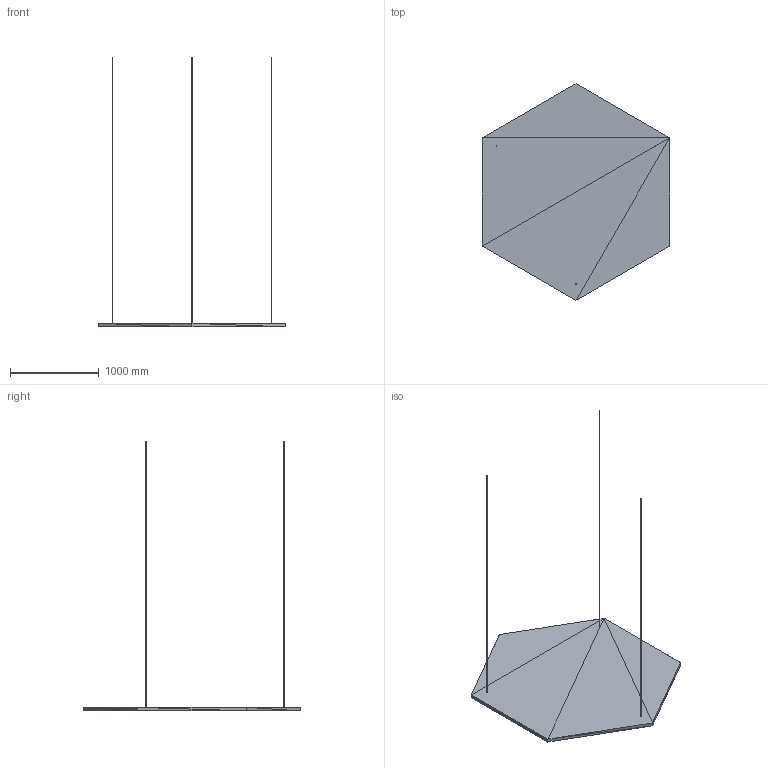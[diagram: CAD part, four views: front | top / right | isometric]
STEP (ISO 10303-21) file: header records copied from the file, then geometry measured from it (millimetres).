
FILE_DESCRIPTION(('ISINAC STEP AP214'),'2;1');
FILE_NAME('ISINAC_HEX.1220_40mm_COLGADO','2026-05-03T10:49:19',('ISINAC'),('www.isinac.com'),'ISINAC BIM Generator 1.0','','');
FILE_SCHEMA(('AUTOMOTIVE_DESIGN'));
Length unit declared in the file: millimetre
Products named in the file (1): ISINAC_HEX.1220_40mm_COLGADO
Bounding box: 2113.1 x 2440 x 3040 mm (x, y, z)
Surface area: 8107787.2 mm2 (no closed solid volume)
Topology: 0 solids, 80 shells, 80 faces, 240 edges, 240 vertices
Faces by surface type: plane 80
Entity records: 893 total; most frequent: CARTESIAN_POINT 320, DIRECTION 160, POLY_LOOP 80, FACE_OUTER_BOUND 80, AXIS2_PLACEMENT_3D 80, PLANE 80, FACE_SURFACE 80, CLOSED_SHELL 1
